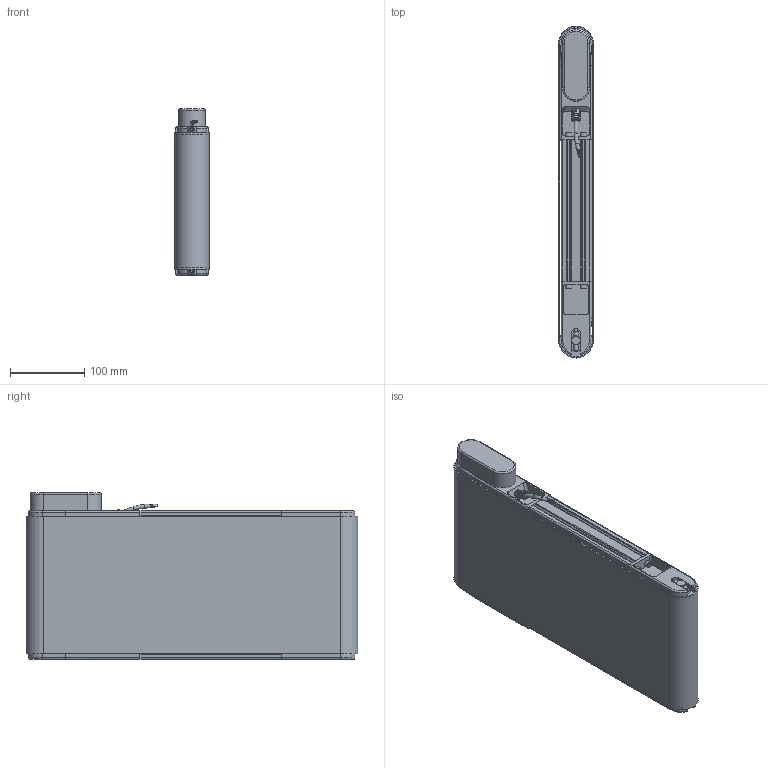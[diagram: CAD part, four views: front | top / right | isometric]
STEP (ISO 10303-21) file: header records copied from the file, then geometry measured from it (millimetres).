
FILE_DESCRIPTION(/* description */ (''),/* implementation_level */ '2;1');
FILE_NAME(/* name */ 'G:\DATEN\CAD\Förderband\Marketing\3D-Modelle (Standard)\FR-40-200-Q\FR-40-200-Q-400-K.stp',/* time_stamp */ '2019-05-09T10:08:54+02:00',/* author */ ('melanie.ochs'),/* organization */ (''),/* preprocessor_version */ 'ST-DEVELOPER v17',/* originating_system */ 'Autodesk Inventor 2019',/* authorisation */ '');
FILE_SCHEMA (('CONFIG_CONTROL_DESIGN'));
Length unit declared in the file: centimetre
Products named in the file (1): FR-40-200-Q-400-K
Bounding box: 46.6 x 446.6 x 224.5 mm (x, y, z)
Volume: 2330851.5 mm3; surface area: 531993.2 mm2
Topology: 6 solids, 25 shells, 924 faces, 2504 edges, 1671 vertices
Faces by surface type: plane 473, cylinder 291, cone 70, bspline 61, torus 29
Full cylindrical faces by diameter (mm): 1 x6, 3 x1, 4 x12, 4.3 x4, 4.917 x3, 5 x11, 5.5 x8, 6 x4, 6.5 x1, 6.773 x1, 6.917 x3, 8 x4, 8.3 x4, 8.5 x8, 8.773 x1, 10 x2, 11 x1, 12 x6, 25 x2, 28 x2, 28.01 x2, 30 x1
Entity records: 31084 total; most frequent: CARTESIAN_POINT 6835, ORIENTED_EDGE 4964, DIRECTION 4769, EDGE_CURVE 2482, AXIS2_PLACEMENT_3D 1714, VERTEX_POINT 1670, LINE 1341, VECTOR 1341
